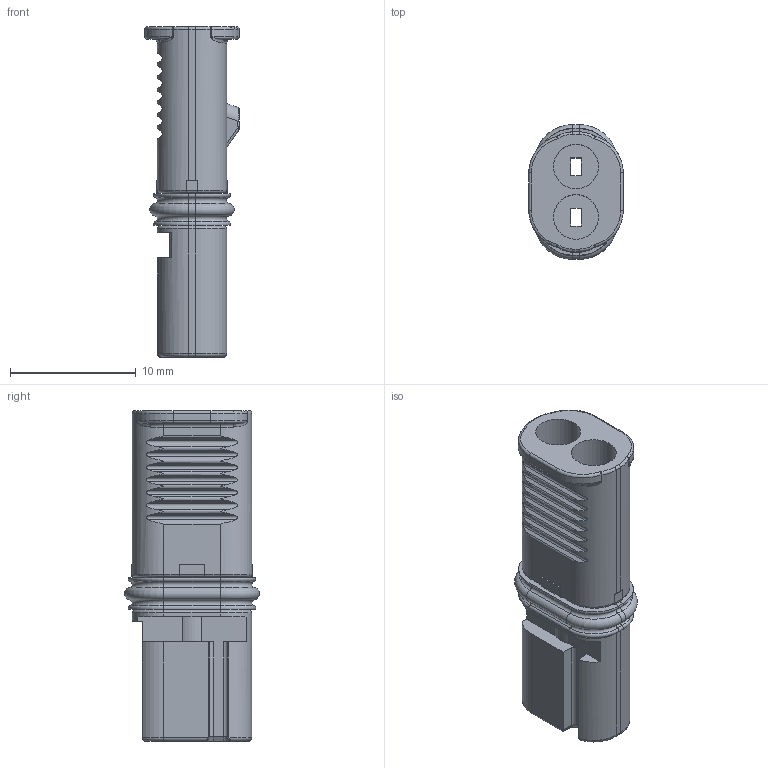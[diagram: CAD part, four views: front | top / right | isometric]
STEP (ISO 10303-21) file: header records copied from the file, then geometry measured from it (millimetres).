
FILE_DESCRIPTION(/* description */ ('CATIA V5 STEP'),/* implementation_level */ '2;1');
FILE_NAME(/* name */ 'HK12-2S-A.step',/* time_stamp */ '2025-04-20T03:18:38-05:00',/* author */ (''),/* organization */ ('Corsa Technic, LLC'),/* preprocessor_version */ 'ST-DEVELOPER v20.1',/* originating_system */ 'Autodesk Translation Framework v14.4.0.0',/* authorisation */ '3D design STEP models are provided for reference only. STEP models DO NOT provide accurate tolerance information and the model may not be constructed to the nominal nor the manufacturing-optimized version of the design. User assumes all risks from use of these models. Corsa Technic, LLC makes no representation or warranty (expressed or implied) with respect to the STEP models, including but not limited to the accuracy or completeness of product dimensions or any other technical specifications contained in or accompanying the STEP models, non-infringement of third party rights, and quality, suitability, fitness for purpose or title.');
FILE_SCHEMA (('AUTOMOTIVE_DESIGN { 1 0 10303 214 3 1 1 }'));
Length unit declared in the file: millimetre
Products named in the file (1): Part2
Bounding box: 7.5 x 10.7 x 26.25 mm (x, y, z)
Volume: 944 mm3; surface area: 1309.8 mm2
Topology: 1 solids, 1 shells, 301 faces, 773 edges, 475 vertices
Faces by surface type: plane 111, cylinder 97, torus 56, bspline 35, cone 2
Full cylindrical faces by diameter (mm): 3.55 x2
Entity records: 9964 total; most frequent: CARTESIAN_POINT 2750, ORIENTED_EDGE 1534, DIRECTION 1476, EDGE_CURVE 767, AXIS2_PLACEMENT_3D 551, VERTEX_POINT 475, LINE 374, VECTOR 374
